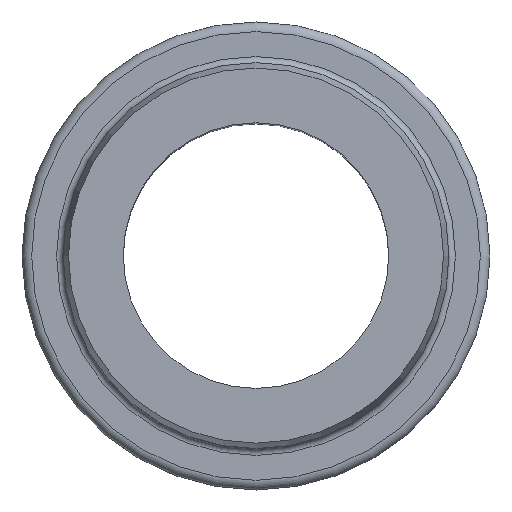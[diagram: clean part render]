
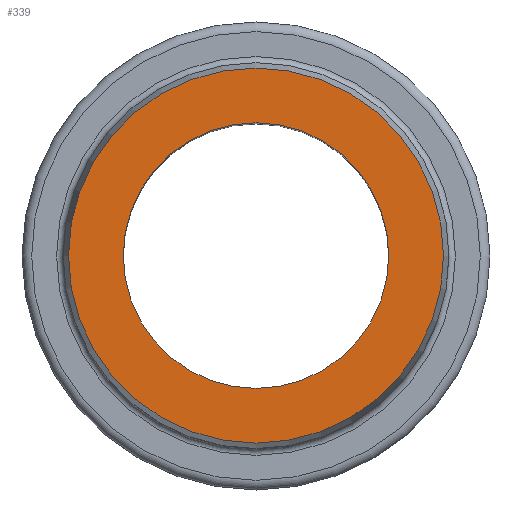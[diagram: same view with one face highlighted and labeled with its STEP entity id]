
A CAD part, top view. The second image highlights one B-rep face of the part: STEP entity #339.
In plain terms, the highlighted planar face has unit normal (0, 0, 1).
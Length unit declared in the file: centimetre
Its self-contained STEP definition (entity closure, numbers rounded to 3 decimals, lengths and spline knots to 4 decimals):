
#113=PLANE('',#383);
#120=VERTEX_POINT('',#462);
#141=VERTEX_POINT('',#524);
#142=CIRCLE('',#341,3.1496);
#163=CIRCLE('',#382,4.4478);
#164=EDGE_CURVE('',#120,#120,#142,.T.);
#185=EDGE_CURVE('',#141,#141,#163,.T.);
#228=ORIENTED_EDGE('',*,*,#164,.F.);
#229=ORIENTED_EDGE('',*,*,#185,.T.);
#272=EDGE_LOOP('',(#228));
#273=EDGE_LOOP('',(#229));
#316=FACE_BOUND('',#272,.T.);
#317=FACE_BOUND('',#273,.T.);
#339=ADVANCED_FACE('',(#316,#317),#113,.T.);
#341=AXIS2_PLACEMENT_3D('',#461,#386,#387);
#382=AXIS2_PLACEMENT_3D('',#523,#457,#458);
#383=AXIS2_PLACEMENT_3D('',#525,#459,$);
#386=DIRECTION('',(0.,0.,1.));
#387=DIRECTION('',(-3.15,0.,0.));
#457=DIRECTION('',(0.,0.,1.));
#458=DIRECTION('',(0.,4.448,0.));
#459=DIRECTION('',(0.,0.,1.));
#461=CARTESIAN_POINT('',(0.,0.,0.));
#462=CARTESIAN_POINT('',(-3.1496,0.,0.));
#523=CARTESIAN_POINT('',(0.,0.,0.));
#524=CARTESIAN_POINT('',(0.,4.4478,0.));
#525=CARTESIAN_POINT('',(0.,3.8114,0.));
